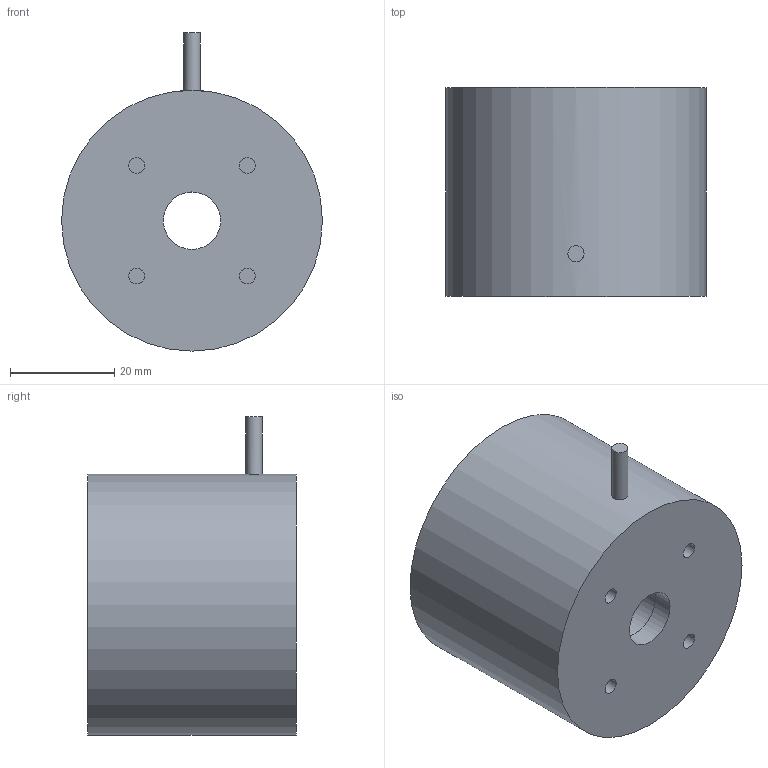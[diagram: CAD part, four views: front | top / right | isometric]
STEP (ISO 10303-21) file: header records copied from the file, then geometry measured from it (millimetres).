
FILE_DESCRIPTION(/* description */ (''),/* implementation_level */ '2;1');
FILE_NAME(/* name */ 'C:\#Vault-WorkDir\Konstruktions-Dokumente\Projekte\Zubehör allgemein\Falcon Beleuchtungen\153-00704_LD 50 xD-24-KFL5.stp',/* time_stamp */ '2018-07-26T09:55:19+02:00',/* author */ ('SensoPart'),/* organization */ ('SensoPart'),/* preprocessor_version */ 'ST-DEVELOPER v17',/* originating_system */ 'Autodesk Inventor 2018',/* authorisation */ '');
FILE_SCHEMA (('AUTOMOTIVE_DESIGN { 1 0 10303 214 3 1 1 }'));
Length unit declared in the file: millimetre
Products named in the file (1): GH-ENG-0026388_Shrinkwrap_1
Bounding box: 50 x 40 x 61 mm (x, y, z)
Volume: 58255 mm3; surface area: 23093.6 mm2
Topology: 2 solids, 2 shells, 27 faces, 69 edges, 52 vertices
Faces by surface type: cylinder 13, plane 11, cone 3
Full cylindrical faces by diameter (mm): 3 x4, 3.1 x1, 11 x2, 22 x2, 46 x1, 47.5 x2, 50 x1
Entity records: 958 total; most frequent: CARTESIAN_POINT 187, DIRECTION 169, ORIENTED_EDGE 138, AXIS2_PLACEMENT_3D 76, EDGE_CURVE 69, VERTEX_POINT 52, CIRCLE 48, EDGE_LOOP 37
